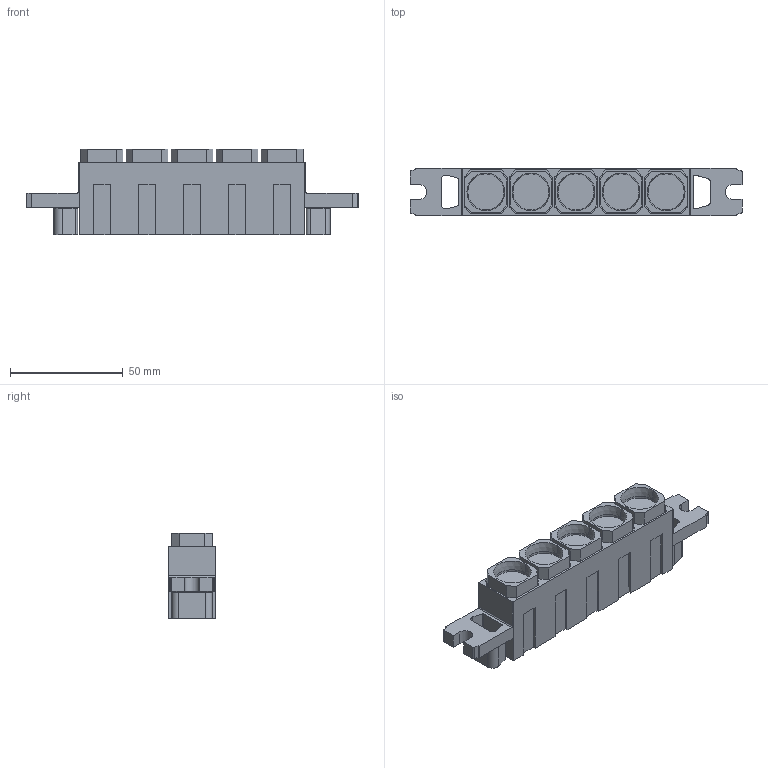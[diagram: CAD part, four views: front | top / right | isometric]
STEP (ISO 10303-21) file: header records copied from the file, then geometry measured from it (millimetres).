
FILE_DESCRIPTION((''),'2;1');
FILE_NAME('C-2212282-1','2016-03-18T',('workeradm'),('Tyco Electronics Ltd.'),'CREO PARAMETRIC BY PTC INC, 2015200','CREO PARAMETRIC BY PTC INC, 2015200','');
FILE_SCHEMA(('AUTOMOTIVE_DESIGN { 1 0 10303 214 1 1 1 1 }'));
Length unit declared in the file: millimetre
Products named in the file (1): C-2212282-1
Bounding box: 147.3 x 21.2 x 38.05 mm (x, y, z)
Volume: 61743.9 mm3; surface area: 24700.2 mm2
Topology: 1 solids, 1 shells, 319 faces, 824 edges, 534 vertices
Faces by surface type: plane 195, cylinder 86, cone 20, torus 18
Entity records: 9722 total; most frequent: DIRECTION 1682, CARTESIAN_POINT 1679, ORIENTED_EDGE 1648, EDGE_CURVE 824, VECTOR 604, LINE 604, AXIS2_PLACEMENT_3D 539, VERTEX_POINT 534
